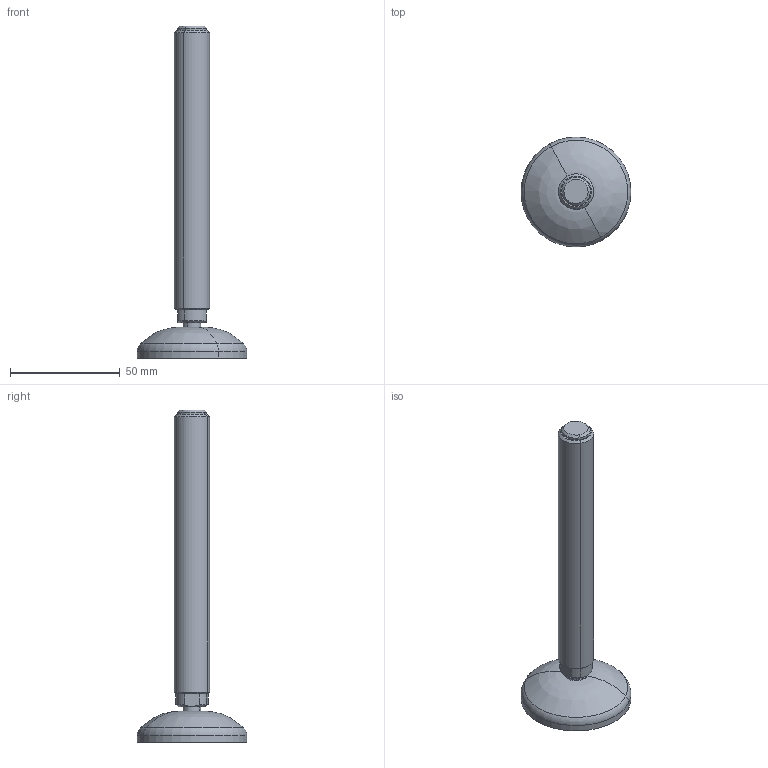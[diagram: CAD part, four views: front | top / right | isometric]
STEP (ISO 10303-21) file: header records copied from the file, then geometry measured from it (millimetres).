
FILE_DESCRIPTION(('CATIA V5 STEP Exchange'),'2;1');
FILE_NAME('X:\CODICI MOVEX\3D per clienti\3D definitivi\Part 900\P90603Z_01.stp','2016-09-15T16:03:08+00:00',('none'),('none'),'Version 5-6 Release 2012','CATIA V5 STEP AP203','none');
FILE_SCHEMA(('CONFIG_CONTROL_DESIGN'));
Length unit declared in the file: millimetre
Products named in the file (1): P90603Z_01
Assembly tree (2 placements, depth 2):
  P90603Z_01
    #58
    #19225
Bounding box: 49.99 x 49.99 x 151 mm (x, y, z)
Volume: 41301.4 mm3; surface area: 16850 mm2
Topology: 2 solids, 10 shells, 569 faces, 1582 edges, 1038 vertices
Faces by surface type: plane 462, cylinder 38, torus 28, revolution 19, sphere 14, cone 8
Entity records: 19865 total; most frequent: CARTESIAN_POINT 7595, ORIENTED_EDGE 3156, EDGE_CURVE 1578, DIRECTION 1544, VERTEX_POINT 1038, B_SPLINE_CURVE_WITH_KNOTS 974, AXIS2_PLACEMENT_3D 603, EDGE_LOOP 578
